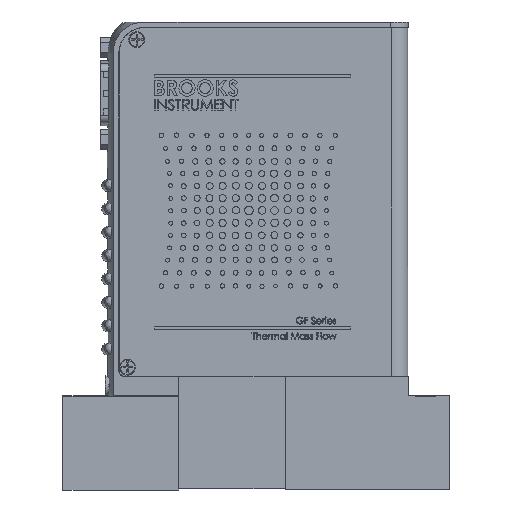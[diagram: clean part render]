
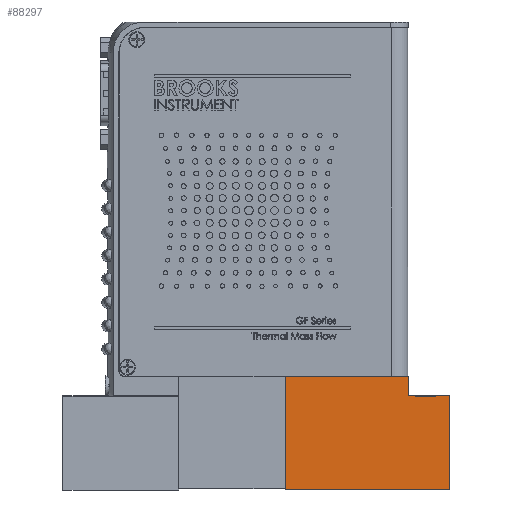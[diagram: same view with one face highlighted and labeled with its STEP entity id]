
A CAD part, top view. The second image highlights one B-rep face of the part: STEP entity #88297.
In plain terms, the highlighted planar face has unit normal (0, 0, 1).
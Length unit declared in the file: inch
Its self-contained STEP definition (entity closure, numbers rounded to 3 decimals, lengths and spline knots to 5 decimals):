
#275 = DIRECTION ( 'NONE',  ( 0., -1., 0. ) ) ;
#422 = CARTESIAN_POINT ( 'NONE',  ( 2.324, 1., 0.74016 ) ) ;
#869 = LINE ( 'NONE', #110712, #34359 ) ;
#1443 = EDGE_CURVE ( 'NONE', #69029, #94792, #76176, .T. ) ;
#1823 = VECTOR ( 'NONE', #56245, 39.37008 ) ;
#4848 = VECTOR ( 'NONE', #78454, 39.37008 ) ;
#5088 = LINE ( 'NONE', #92292, #12840 ) ;
#8168 = CARTESIAN_POINT ( 'NONE',  ( 2.324, 1., 0.74016 ) ) ;
#8988 = VERTEX_POINT ( 'NONE', #91459 ) ;
#11578 = CARTESIAN_POINT ( 'NONE',  ( 0.57, 1.207, 0.74016 ) ) ;
#11895 = LINE ( 'NONE', #99062, #92017 ) ;
#12840 = VECTOR ( 'NONE', #136985, 39.37008 ) ;
#13549 = CARTESIAN_POINT ( 'NONE',  ( 1.96034, 0.99, 0.74016 ) ) ;
#20609 = VECTOR ( 'NONE', #275, 39.37008 ) ;
#21366 = VECTOR ( 'NONE', #97521, 39.37008 ) ;
#23563 = ORIENTED_EDGE ( 'NONE', *, *, #38541, .F. ) ;
#24273 = FACE_OUTER_BOUND ( 'NONE', #139779, .T. ) ;
#25584 = CARTESIAN_POINT ( 'NONE',  ( 2.17966, 0.99, 0.74016 ) ) ;
#27864 = ORIENTED_EDGE ( 'NONE', *, *, #51076, .T. ) ;
#34359 = VECTOR ( 'NONE', #135631, 39.37008 ) ;
#37368 = VERTEX_POINT ( 'NONE', #115144 ) ;
#37796 = AXIS2_PLACEMENT_3D ( 'NONE', #56519, #123182, #55077 ) ;
#38541 = EDGE_CURVE ( 'NONE', #8988, #69029, #54296, .T. ) ;
#38957 = LINE ( 'NONE', #82189, #60499 ) ;
#39282 = ORIENTED_EDGE ( 'NONE', *, *, #1443, .F. ) ;
#39721 = EDGE_CURVE ( 'NONE', #37368, #128634, #58646, .T. ) ;
#41100 = VERTEX_POINT ( 'NONE', #25584 ) ;
#44689 = CARTESIAN_POINT ( 'NONE',  ( 2.324, 1.207, 0.74016 ) ) ;
#50062 = ORIENTED_EDGE ( 'NONE', *, *, #137900, .T. ) ;
#51076 = EDGE_CURVE ( 'NONE', #142480, #128634, #5088, .T. ) ;
#51589 = LINE ( 'NONE', #57374, #20609 ) ;
#52661 = CARTESIAN_POINT ( 'NONE',  ( 2.17966, 0.99, 0.74016 ) ) ;
#54296 = LINE ( 'NONE', #8168, #21366 ) ;
#55077 = DIRECTION ( 'NONE',  ( -1., 0., 0. ) ) ;
#56245 = DIRECTION ( 'NONE',  ( 1., 0., 0. ) ) ;
#56519 = CARTESIAN_POINT ( 'NONE',  ( 0.57, 1.207, 0.74016 ) ) ;
#57374 = CARTESIAN_POINT ( 'NONE',  ( 0.57, 1.207, 0.74016 ) ) ;
#58075 = ORIENTED_EDGE ( 'NONE', *, *, #39721, .F. ) ;
#58646 = LINE ( 'NONE', #112859, #4848 ) ;
#59523 = DIRECTION ( 'NONE',  ( 1., 0., 0. ) ) ;
#59587 = CARTESIAN_POINT ( 'NONE',  ( 0.57, 1.207, 0.74016 ) ) ;
#60499 = VECTOR ( 'NONE', #59523, 39.37008 ) ;
#61483 = DIRECTION ( 'NONE',  ( 0., -1., 0. ) ) ;
#65944 = VERTEX_POINT ( 'NONE', #59587 ) ;
#68094 = DIRECTION ( 'NONE',  ( 0., -1., 0. ) ) ;
#69029 = VERTEX_POINT ( 'NONE', #422 ) ;
#69659 = VECTOR ( 'NONE', #61483, 39.37008 ) ;
#70862 = VECTOR ( 'NONE', #68094, 39.37008 ) ;
#73889 = LINE ( 'NONE', #52661, #69659 ) ;
#76165 = EDGE_CURVE ( 'NONE', #37368, #135496, #869, .T. ) ;
#76176 = LINE ( 'NONE', #44689, #70862 ) ;
#78454 = DIRECTION ( 'NONE',  ( 1., 0., 0. ) ) ;
#78481 = PLANE ( 'NONE',  #37796 ) ;
#79060 = CARTESIAN_POINT ( 'NONE',  ( 1.894, 1.207, 0.74016 ) ) ;
#79257 = DIRECTION ( 'NONE',  ( 1., 0., 0. ) ) ;
#81619 = CARTESIAN_POINT ( 'NONE',  ( 2.324, 0., 0.74016 ) ) ;
#82189 = CARTESIAN_POINT ( 'NONE',  ( 0.57, 0.99, 0.74016 ) ) ;
#86654 = ORIENTED_EDGE ( 'NONE', *, *, #136853, .F. ) ;
#88297 = ADVANCED_FACE ( 'NONE', ( #24273 ), #78481, .F. ) ;
#91459 = CARTESIAN_POINT ( 'NONE',  ( 2.17966, 1., 0.74016 ) ) ;
#92017 = VECTOR ( 'NONE', #79257, 39.37008 ) ;
#92292 = CARTESIAN_POINT ( 'NONE',  ( 1.96034, 0.99, 0.74016 ) ) ;
#94792 = VERTEX_POINT ( 'NONE', #81619 ) ;
#97521 = DIRECTION ( 'NONE',  ( 1., 0., 0. ) ) ;
#99062 = CARTESIAN_POINT ( 'NONE',  ( 0.57, 0., 0.74016 ) ) ;
#100368 = VERTEX_POINT ( 'NONE', #112195 ) ;
#100493 = ORIENTED_EDGE ( 'NONE', *, *, #107955, .T. ) ;
#107955 = EDGE_CURVE ( 'NONE', #8988, #41100, #73889, .T. ) ;
#108203 = ORIENTED_EDGE ( 'NONE', *, *, #76165, .T. ) ;
#110712 = CARTESIAN_POINT ( 'NONE',  ( 1.894, 1., 0.74016 ) ) ;
#111892 = LINE ( 'NONE', #11578, #1823 ) ;
#112195 = CARTESIAN_POINT ( 'NONE',  ( 0.57, 0., 0.74016 ) ) ;
#112859 = CARTESIAN_POINT ( 'NONE',  ( 2.324, 1., 0.74016 ) ) ;
#113196 = EDGE_CURVE ( 'NONE', #100368, #94792, #11895, .T. ) ;
#113931 = CARTESIAN_POINT ( 'NONE',  ( 1.96034, 1., 0.74016 ) ) ;
#115144 = CARTESIAN_POINT ( 'NONE',  ( 1.894, 1., 0.74016 ) ) ;
#120659 = ORIENTED_EDGE ( 'NONE', *, *, #113196, .T. ) ;
#123182 = DIRECTION ( 'NONE',  ( 0., 0., -1. ) ) ;
#124262 = EDGE_CURVE ( 'NONE', #142480, #41100, #38957, .T. ) ;
#128634 = VERTEX_POINT ( 'NONE', #113931 ) ;
#133210 = ORIENTED_EDGE ( 'NONE', *, *, #124262, .F. ) ;
#135496 = VERTEX_POINT ( 'NONE', #79060 ) ;
#135631 = DIRECTION ( 'NONE',  ( 0., 1., 0. ) ) ;
#136853 = EDGE_CURVE ( 'NONE', #65944, #135496, #111892, .T. ) ;
#136985 = DIRECTION ( 'NONE',  ( 0., 1., 0. ) ) ;
#137900 = EDGE_CURVE ( 'NONE', #65944, #100368, #51589, .T. ) ;
#139779 = EDGE_LOOP ( 'NONE', ( #133210, #27864, #58075, #108203, #86654, #50062, #120659, #39282, #23563, #100493 ) ) ;
#142480 = VERTEX_POINT ( 'NONE', #13549 ) ;
